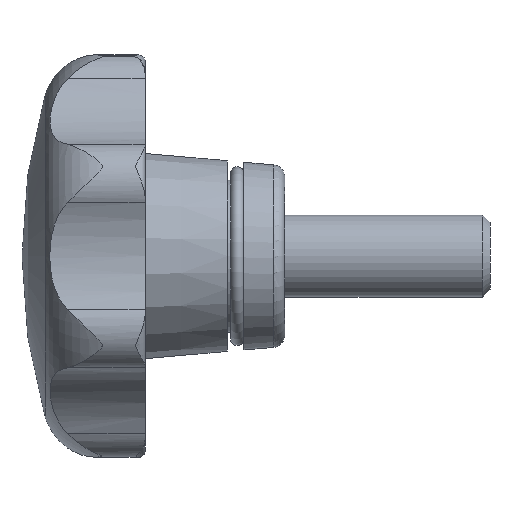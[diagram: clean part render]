
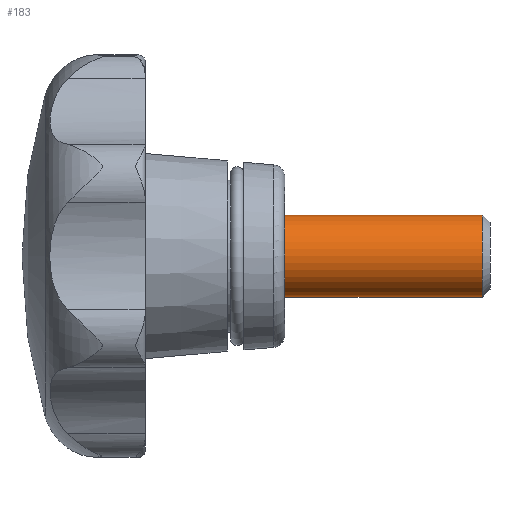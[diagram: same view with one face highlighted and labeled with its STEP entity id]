
A CAD part, left-side view. The second image highlights one B-rep face of the part: STEP entity #183.
In plain terms, the highlighted cylindrical face has radius 5 mm (diameter 10 mm), a full revolution.
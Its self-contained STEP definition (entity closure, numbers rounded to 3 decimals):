
#183 = ADVANCED_FACE( '', ( #346, #347 ), #348, .T. );
#346 = FACE_OUTER_BOUND( '', #669, .T. );
#347 = FACE_OUTER_BOUND( '', #670, .T. );
#348 = CYLINDRICAL_SURFACE( '', #671, 5. );
#669 = EDGE_LOOP( '', ( #1033 ) );
#670 = EDGE_LOOP( '', ( #1034 ) );
#671 = AXIS2_PLACEMENT_3D( '', #1035, #1036, #1037 );
#1033 = ORIENTED_EDGE( '', *, *, #1994, .F. );
#1034 = ORIENTED_EDGE( '', *, *, #1995, .T. );
#1035 = CARTESIAN_POINT( '', ( 0., -25., 0. ) );
#1036 = DIRECTION( '', ( 0., 1., 0. ) );
#1037 = DIRECTION( '', ( 0., 0., -1. ) );
#1994 = EDGE_CURVE( '', #2327, #2327, #2328, .T. );
#1995 = EDGE_CURVE( '', #2329, #2329, #2330, .T. );
#2327 = VERTEX_POINT( '', #2933 );
#2328 = CIRCLE( '', #2934, 5. );
#2329 = VERTEX_POINT( '', #2935 );
#2330 = CIRCLE( '', #2936, 5. );
#2933 = CARTESIAN_POINT( '', ( 0., -24.08, -5. ) );
#2934 = AXIS2_PLACEMENT_3D( '', #4430, #4431, #4432 );
#2935 = CARTESIAN_POINT( '', ( 0., 0., -5. ) );
#2936 = AXIS2_PLACEMENT_3D( '', #4433, #4434, #4435 );
#4430 = CARTESIAN_POINT( '', ( 0., -24.08, 0. ) );
#4431 = DIRECTION( '', ( 0., -1., 0. ) );
#4432 = DIRECTION( '', ( 0., 0., -1. ) );
#4433 = CARTESIAN_POINT( '', ( 0., 0., 0. ) );
#4434 = DIRECTION( '', ( 0., -1., 0. ) );
#4435 = DIRECTION( '', ( 0., 0., -1. ) );
